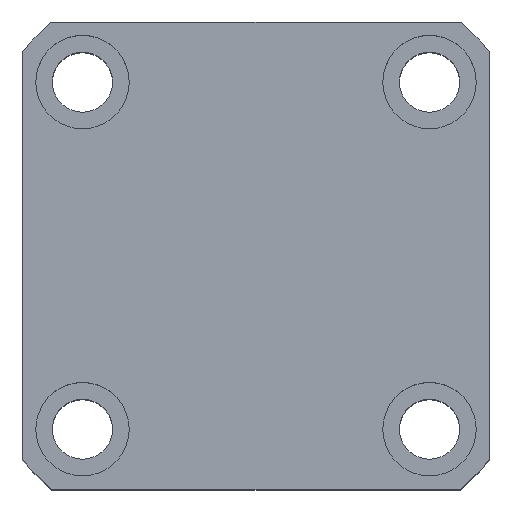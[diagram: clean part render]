
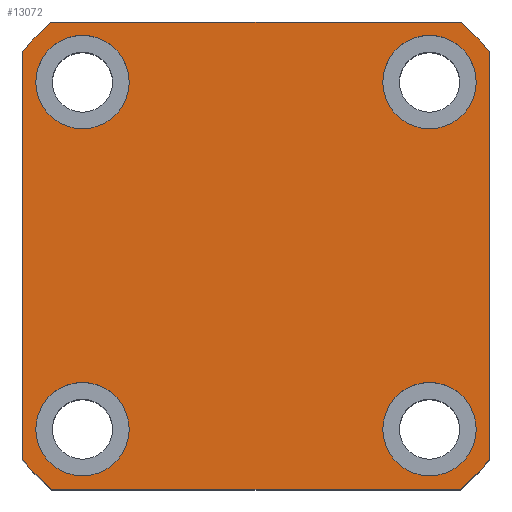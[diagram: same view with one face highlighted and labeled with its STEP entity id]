
A CAD part, top view. The second image highlights one B-rep face of the part: STEP entity #13072.
In plain terms, the highlighted planar face has unit normal (0, 0, 1).
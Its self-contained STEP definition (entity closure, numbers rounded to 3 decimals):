
#455 = DIRECTION ( 'NONE',  ( 0., 0., 1. ) ) ;
#571 = VERTEX_POINT ( 'NONE', #8244 ) ;
#664 = DIRECTION ( 'NONE',  ( 0., -1., 0. ) ) ;
#711 = FACE_OUTER_BOUND ( 'NONE', #1895, .T. ) ;
#870 = ORIENTED_EDGE ( 'NONE', *, *, #11559, .T. ) ;
#1136 = CARTESIAN_POINT ( 'NONE',  ( -26., 26., 70. ) ) ;
#1169 = DIRECTION ( 'NONE',  ( 1., 0., 0. ) ) ;
#1598 = CIRCLE ( 'NONE', #13377, 7. ) ;
#1612 = EDGE_CURVE ( 'NONE', #5983, #13608, #1598, .T. ) ;
#1706 = LINE ( 'NONE', #8633, #10190 ) ;
#1798 = CIRCLE ( 'NONE', #7792, 7. ) ;
#1814 = CARTESIAN_POINT ( 'NONE',  ( -26., -26., 70. ) ) ;
#1895 = EDGE_LOOP ( 'NONE', ( #13351, #870, #9823, #5428, #8551, #13650, #8450, #13161 ) ) ;
#1945 = DIRECTION ( 'NONE',  ( 0., 0., 1. ) ) ;
#1959 = EDGE_CURVE ( 'NONE', #13665, #9319, #7430, .T. ) ;
#2126 = CARTESIAN_POINT ( 'NONE',  ( 26., -26., 70. ) ) ;
#2193 = DIRECTION ( 'NONE',  ( 1., 0., 0. ) ) ;
#2550 = ORIENTED_EDGE ( 'NONE', *, *, #2962, .F. ) ;
#2592 = ORIENTED_EDGE ( 'NONE', *, *, #10715, .F. ) ;
#2622 = AXIS2_PLACEMENT_3D ( 'NONE', #1814, #9257, #2880 ) ;
#2671 = VERTEX_POINT ( 'NONE', #11113 ) ;
#2741 = DIRECTION ( 'NONE',  ( 1., 0., 0. ) ) ;
#2780 = EDGE_CURVE ( 'NONE', #12386, #8500, #6588, .T. ) ;
#2880 = DIRECTION ( 'NONE',  ( 1., 0., 0. ) ) ;
#2962 = EDGE_CURVE ( 'NONE', #571, #6422, #8416, .T. ) ;
#2963 = AXIS2_PLACEMENT_3D ( 'NONE', #3247, #10689, #4331 ) ;
#2985 = AXIS2_PLACEMENT_3D ( 'NONE', #11307, #4983, #12372 ) ;
#3088 = ORIENTED_EDGE ( 'NONE', *, *, #1612, .F. ) ;
#3194 = DIRECTION ( 'NONE',  ( 1., 0., 0. ) ) ;
#3247 = CARTESIAN_POINT ( 'NONE',  ( -26., 26., 70. ) ) ;
#3401 = VERTEX_POINT ( 'NONE', #7857 ) ;
#3524 = FACE_BOUND ( 'NONE', #8748, .T. ) ;
#3595 = EDGE_CURVE ( 'NONE', #12949, #13665, #7911, .T. ) ;
#3598 = EDGE_LOOP ( 'NONE', ( #2550, #2592 ) ) ;
#3611 = AXIS2_PLACEMENT_3D ( 'NONE', #6843, #455, #7909 ) ;
#3874 = FACE_BOUND ( 'NONE', #6726, .T. ) ;
#3902 = AXIS2_PLACEMENT_3D ( 'NONE', #4149, #11564, #2741 ) ;
#3938 = CARTESIAN_POINT ( 'NONE',  ( 19., -26., 70. ) ) ;
#4149 = CARTESIAN_POINT ( 'NONE',  ( 26., 26., 70. ) ) ;
#4331 = DIRECTION ( 'NONE',  ( 1., 0., 0. ) ) ;
#4354 = VERTEX_POINT ( 'NONE', #13315 ) ;
#4402 = VECTOR ( 'NONE', #664, 1000. ) ;
#4546 = DIRECTION ( 'NONE',  ( 0., 0., 1. ) ) ;
#4677 = LINE ( 'NONE', #6945, #6189 ) ;
#4739 = EDGE_CURVE ( 'NONE', #8870, #8607, #10363, .T. ) ;
#4859 = AXIS2_PLACEMENT_3D ( 'NONE', #10892, #4546, #11946 ) ;
#4919 = DIRECTION ( 'NONE',  ( 0., 0., 1. ) ) ;
#4983 = DIRECTION ( 'NONE',  ( 0., 0., 1. ) ) ;
#5002 = EDGE_CURVE ( 'NONE', #4354, #3401, #8389, .T. ) ;
#5019 = ORIENTED_EDGE ( 'NONE', *, *, #9312, .F. ) ;
#5048 = DIRECTION ( 'NONE',  ( 0., 0., 1. ) ) ;
#5372 = EDGE_CURVE ( 'NONE', #9319, #5376, #1706, .T. ) ;
#5376 = VERTEX_POINT ( 'NONE', #11806 ) ;
#5428 = ORIENTED_EDGE ( 'NONE', *, *, #6098, .T. ) ;
#5622 = CARTESIAN_POINT ( 'NONE',  ( -35., -30.615, 70. ) ) ;
#5696 = CARTESIAN_POINT ( 'NONE',  ( -35., 30.615, 70. ) ) ;
#5777 = DIRECTION ( 'NONE',  ( 0., 0., 1. ) ) ;
#5861 = CIRCLE ( 'NONE', #2985, 46.5 ) ;
#5983 = VERTEX_POINT ( 'NONE', #7624 ) ;
#5999 = CARTESIAN_POINT ( 'NONE',  ( -35., 35., 70. ) ) ;
#6098 = EDGE_CURVE ( 'NONE', #9990, #12949, #6544, .T. ) ;
#6189 = VECTOR ( 'NONE', #13239, 1000. ) ;
#6288 = CARTESIAN_POINT ( 'NONE',  ( -33., 26., 70. ) ) ;
#6355 = ORIENTED_EDGE ( 'NONE', *, *, #4739, .F. ) ;
#6381 = FACE_BOUND ( 'NONE', #7241, .T. ) ;
#6422 = VERTEX_POINT ( 'NONE', #3938 ) ;
#6544 = CIRCLE ( 'NONE', #3611, 46.5 ) ;
#6588 = CIRCLE ( 'NONE', #2622, 7. ) ;
#6726 = EDGE_LOOP ( 'NONE', ( #6355, #11949 ) ) ;
#6843 = CARTESIAN_POINT ( 'NONE',  ( 0., 0., 70. ) ) ;
#6945 = CARTESIAN_POINT ( 'NONE',  ( -35., 35., 70. ) ) ;
#7241 = EDGE_LOOP ( 'NONE', ( #8737, #10778 ) ) ;
#7363 = AXIS2_PLACEMENT_3D ( 'NONE', #7968, #5777, #13128 ) ;
#7430 = CIRCLE ( 'NONE', #12413, 46.5 ) ;
#7527 = AXIS2_PLACEMENT_3D ( 'NONE', #1136, #8596, #2193 ) ;
#7624 = CARTESIAN_POINT ( 'NONE',  ( 19., 26., 70. ) ) ;
#7792 = AXIS2_PLACEMENT_3D ( 'NONE', #11250, #4919, #12308 ) ;
#7798 = CIRCLE ( 'NONE', #4859, 46.5 ) ;
#7857 = CARTESIAN_POINT ( 'NONE',  ( 35., 30.615, 70. ) ) ;
#7909 = DIRECTION ( 'NONE',  ( 1., 0., 0. ) ) ;
#7911 = LINE ( 'NONE', #5999, #4402 ) ;
#7968 = CARTESIAN_POINT ( 'NONE',  ( 0., 0., 70. ) ) ;
#8195 = CARTESIAN_POINT ( 'NONE',  ( 26., 26., 70. ) ) ;
#8244 = CARTESIAN_POINT ( 'NONE',  ( 33., -26., 70. ) ) ;
#8285 = DIRECTION ( 'NONE',  ( 0., 0., 1. ) ) ;
#8324 = DIRECTION ( 'NONE',  ( 1., 0., 0. ) ) ;
#8345 = CARTESIAN_POINT ( 'NONE',  ( 0., 0., 70. ) ) ;
#8389 = LINE ( 'NONE', #11382, #10846 ) ;
#8407 = EDGE_CURVE ( 'NONE', #2671, #9990, #4677, .T. ) ;
#8416 = CIRCLE ( 'NONE', #12573, 7. ) ;
#8450 = ORIENTED_EDGE ( 'NONE', *, *, #5372, .T. ) ;
#8497 = EDGE_CURVE ( 'NONE', #5376, #4354, #5861, .T. ) ;
#8500 = VERTEX_POINT ( 'NONE', #10260 ) ;
#8551 = ORIENTED_EDGE ( 'NONE', *, *, #3595, .T. ) ;
#8596 = DIRECTION ( 'NONE',  ( 0., 0., 1. ) ) ;
#8607 = VERTEX_POINT ( 'NONE', #6288 ) ;
#8633 = CARTESIAN_POINT ( 'NONE',  ( -35., -35., 70. ) ) ;
#8638 = CARTESIAN_POINT ( 'NONE',  ( 33., 26., 70. ) ) ;
#8737 = ORIENTED_EDGE ( 'NONE', *, *, #10626, .F. ) ;
#8748 = EDGE_LOOP ( 'NONE', ( #5019, #3088 ) ) ;
#8870 = VERTEX_POINT ( 'NONE', #11864 ) ;
#9191 = FACE_BOUND ( 'NONE', #3598, .T. ) ;
#9257 = DIRECTION ( 'NONE',  ( 0., 0., 1. ) ) ;
#9267 = DIRECTION ( 'NONE',  ( 0., 1., 0. ) ) ;
#9312 = EDGE_CURVE ( 'NONE', #13608, #5983, #10295, .T. ) ;
#9319 = VERTEX_POINT ( 'NONE', #9397 ) ;
#9387 = DIRECTION ( 'NONE',  ( 1., 0., 0. ) ) ;
#9397 = CARTESIAN_POINT ( 'NONE',  ( -30.615, -35., 70. ) ) ;
#9569 = DIRECTION ( 'NONE',  ( 0., 0., 1. ) ) ;
#9823 = ORIENTED_EDGE ( 'NONE', *, *, #8407, .T. ) ;
#9937 = CIRCLE ( 'NONE', #12022, 7. ) ;
#9990 = VERTEX_POINT ( 'NONE', #12369 ) ;
#10190 = VECTOR ( 'NONE', #1169, 1000. ) ;
#10260 = CARTESIAN_POINT ( 'NONE',  ( -19., -26., 70. ) ) ;
#10295 = CIRCLE ( 'NONE', #3902, 7. ) ;
#10363 = CIRCLE ( 'NONE', #2963, 7. ) ;
#10626 = EDGE_CURVE ( 'NONE', #8500, #12386, #1798, .T. ) ;
#10689 = DIRECTION ( 'NONE',  ( 0., 0., 1. ) ) ;
#10715 = EDGE_CURVE ( 'NONE', #6422, #571, #9937, .T. ) ;
#10750 = CARTESIAN_POINT ( 'NONE',  ( -33., -26., 70. ) ) ;
#10778 = ORIENTED_EDGE ( 'NONE', *, *, #2780, .F. ) ;
#10846 = VECTOR ( 'NONE', #9267, 1000. ) ;
#10886 = EDGE_CURVE ( 'NONE', #8607, #8870, #11418, .T. ) ;
#10892 = CARTESIAN_POINT ( 'NONE',  ( 0., 0., 70. ) ) ;
#11113 = CARTESIAN_POINT ( 'NONE',  ( 30.615, 35., 70. ) ) ;
#11250 = CARTESIAN_POINT ( 'NONE',  ( -26., -26., 70. ) ) ;
#11307 = CARTESIAN_POINT ( 'NONE',  ( 0., 0., 70. ) ) ;
#11379 = CARTESIAN_POINT ( 'NONE',  ( 26., -26., 70. ) ) ;
#11382 = CARTESIAN_POINT ( 'NONE',  ( 35., 35., 70. ) ) ;
#11418 = CIRCLE ( 'NONE', #7527, 7. ) ;
#11559 = EDGE_CURVE ( 'NONE', #3401, #2671, #7798, .T. ) ;
#11564 = DIRECTION ( 'NONE',  ( 0., 0., 1. ) ) ;
#11806 = CARTESIAN_POINT ( 'NONE',  ( 30.615, -35., 70. ) ) ;
#11864 = CARTESIAN_POINT ( 'NONE',  ( -19., 26., 70. ) ) ;
#11946 = DIRECTION ( 'NONE',  ( 1., 0., 0. ) ) ;
#11949 = ORIENTED_EDGE ( 'NONE', *, *, #10886, .F. ) ;
#12022 = AXIS2_PLACEMENT_3D ( 'NONE', #11379, #5048, #12433 ) ;
#12087 = PLANE ( 'NONE',  #7363 ) ;
#12308 = DIRECTION ( 'NONE',  ( 1., 0., 0. ) ) ;
#12369 = CARTESIAN_POINT ( 'NONE',  ( -30.615, 35., 70. ) ) ;
#12372 = DIRECTION ( 'NONE',  ( 1., 0., 0. ) ) ;
#12386 = VERTEX_POINT ( 'NONE', #10750 ) ;
#12413 = AXIS2_PLACEMENT_3D ( 'NONE', #8345, #1945, #9387 ) ;
#12433 = DIRECTION ( 'NONE',  ( 1., 0., 0. ) ) ;
#12573 = AXIS2_PLACEMENT_3D ( 'NONE', #2126, #9569, #3194 ) ;
#12949 = VERTEX_POINT ( 'NONE', #5696 ) ;
#13072 = ADVANCED_FACE ( 'NONE', ( #6381, #9191, #3524, #3874, #711 ), #12087, .T. ) ;
#13128 = DIRECTION ( 'NONE',  ( 1., 0., 0. ) ) ;
#13161 = ORIENTED_EDGE ( 'NONE', *, *, #8497, .T. ) ;
#13239 = DIRECTION ( 'NONE',  ( -1., 0., 0. ) ) ;
#13315 = CARTESIAN_POINT ( 'NONE',  ( 35., -30.615, 70. ) ) ;
#13351 = ORIENTED_EDGE ( 'NONE', *, *, #5002, .T. ) ;
#13377 = AXIS2_PLACEMENT_3D ( 'NONE', #8195, #8285, #8324 ) ;
#13608 = VERTEX_POINT ( 'NONE', #8638 ) ;
#13650 = ORIENTED_EDGE ( 'NONE', *, *, #1959, .T. ) ;
#13665 = VERTEX_POINT ( 'NONE', #5622 ) ;
